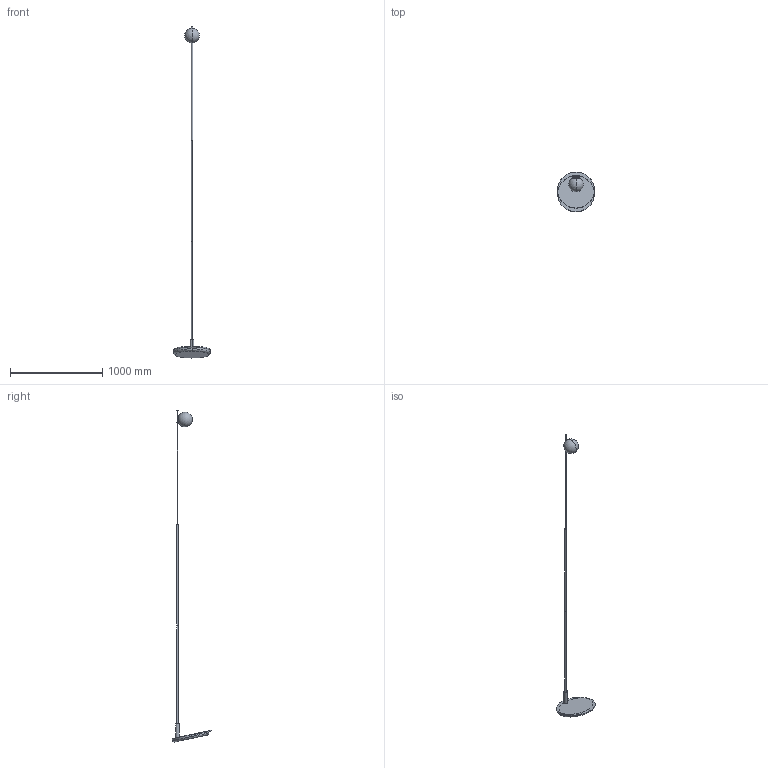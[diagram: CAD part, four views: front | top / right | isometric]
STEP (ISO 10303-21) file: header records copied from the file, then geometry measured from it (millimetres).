
FILE_DESCRIPTION((''),'2;1');
FILE_NAME('HASTA_LUNO_SW0001','2026-02-03T17:10:06',('Piccioli'),(''),'CREO PARAMETRIC BY PTC INC, 2025010','CREO PARAMETRIC BY PTC INC, 2025010','');
FILE_SCHEMA(('CONFIG_CONTROL_DESIGN'));
Length unit declared in the file: millimetre
Products named in the file (1): HASTA_LUNO_SW0001
Bounding box: 400 x 431.84 x 3602.82 mm (x, y, z)
Surface area: 849014.5 mm2 (no closed solid volume)
Topology: 0 solids, 11 shells, 34 faces, 110 edges, 73 vertices
Faces by surface type: cylinder 14, plane 7, sphere 6, torus 6, cone 1
Entity records: 2400 total; most frequent: CARTESIAN_POINT 1432, DIRECTION 210, ORIENTED_EDGE 160, EDGE_CURVE 108, AXIS2_PLACEMENT_3D 92, VERTEX_POINT 73, CIRCLE 58, EDGE_LOOP 34
